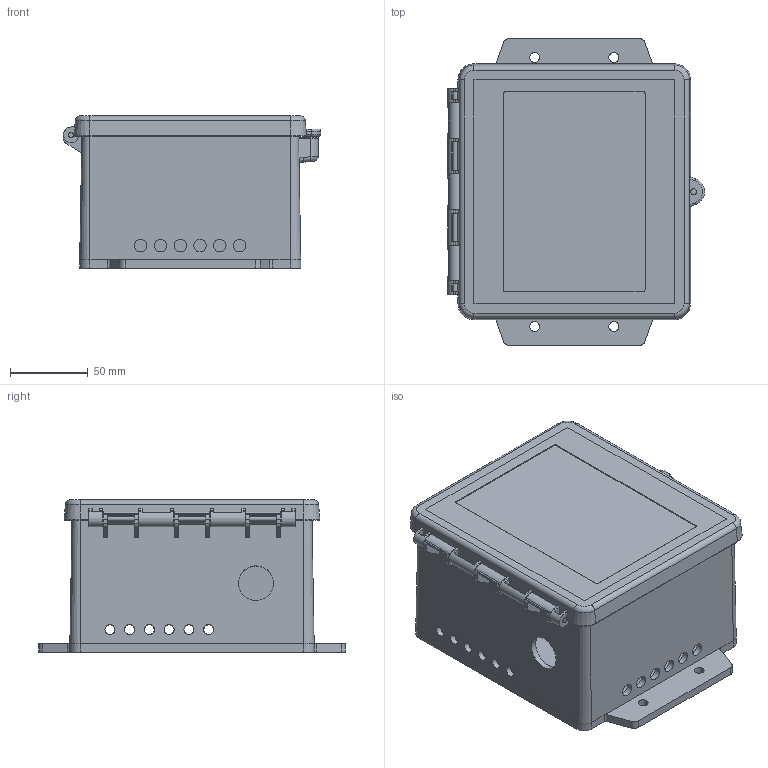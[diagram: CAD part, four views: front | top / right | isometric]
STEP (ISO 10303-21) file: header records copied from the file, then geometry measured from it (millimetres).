
FILE_DESCRIPTION(/* description */ (''),/* implementation_level */ '2;1');
FILE_NAME(/* name */ 'GG-NH3.step',/* time_stamp */ '2025-05-27T17:20:15+05:30',/* author */ (''),/* organization */ (''),/* preprocessor_version */ 'ST-DEVELOPER v20.1',/* originating_system */ 'Autodesk Translation Framework v14.10.0.0',/* authorisation */ '');
FILE_SCHEMA (('AUTOMOTIVE_DESIGN { 1 0 10303 214 3 1 1 }'));
Length unit declared in the file: inch
Products named in the file (1): GG-NH3
Bounding box: 165.1 x 196.85 x 97.66 mm (x, y, z)
Volume: 431416.8 mm3; surface area: 223846.4 mm2
Topology: 4 solids, 4 shells, 324 faces, 902 edges, 591 vertices
Faces by surface type: plane 158, cylinder 121, cone 26, torus 14, bspline 5
Full cylindrical faces by diameter (mm): 3.103 x1, 3.439 x7, 3.81 x2, 6.35 x16, 8.001 x6, 22.225 x1
Entity records: 10812 total; most frequent: CARTESIAN_POINT 1991, DIRECTION 1884, ORIENTED_EDGE 1802, EDGE_CURVE 901, AXIS2_PLACEMENT_3D 667, VERTEX_POINT 591, LINE 550, VECTOR 550
